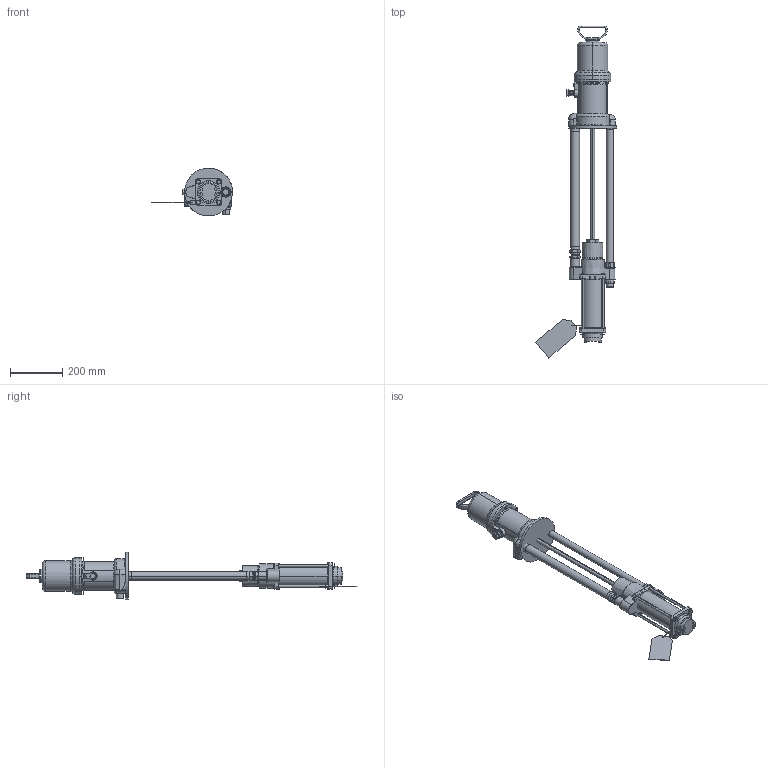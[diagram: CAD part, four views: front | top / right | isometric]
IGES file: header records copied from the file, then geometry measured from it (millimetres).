
Start section:  PTC IGES file: 223185-en-r.igs
Global section: file name: 223185-en-r.igs; native system: Creo Parametric by PTC Inc.; preprocessor: 2021072; author: qusrh3; organization: Unknown; date: 20221027.130206; units: inch
Bounding box: 311.56 x 1276.53 x 183.84 mm (x, y, z)
Surface area: 641635.4 mm2 (no closed solid volume)
Topology: 0 solids, 0 shells, 480 faces, 2411 edges, 2409 vertices
Faces by surface type: revolution 302, bspline 178
